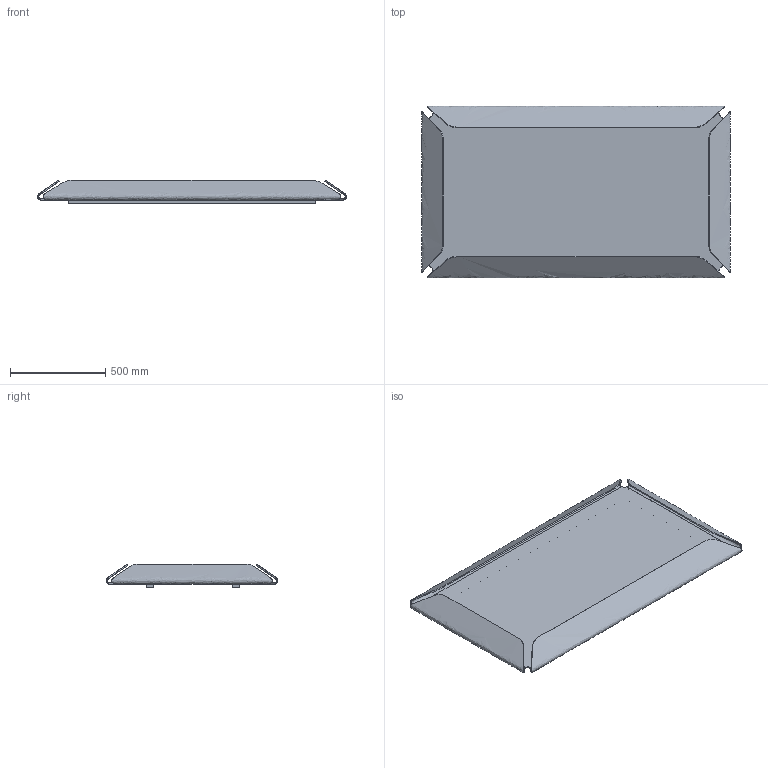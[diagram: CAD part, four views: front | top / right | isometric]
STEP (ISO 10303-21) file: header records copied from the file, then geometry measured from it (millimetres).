
FILE_DESCRIPTION(/* description */ (''),/* implementation_level */ '2;1');
FILE_NAME(/* name */ '381 - Gallery Square 90x162',/* time_stamp */ '2010-11-02T14:42:58+01:00',/* author */ (''),/* organization */ (''),/* preprocessor_version */ 'ST-DEVELOPER v10',/* originating_system */ '',/* authorisation */ '');
FILE_SCHEMA (('CONFIG_CONTROL_DESIGN'));
Length unit declared in the file: centimetre
Products named in the file (1): 1
Bounding box: 1620 x 900 x 124.78 mm (x, y, z)
Volume: 15359095.8 mm3; surface area: 5230322.1 mm2
Topology: 7 solids, 7 shells, 88 faces, 222 edges, 148 vertices
Faces by surface type: bspline 74, plane 14
Entity records: 3690 total; most frequent: CARTESIAN_POINT 2232, ORIENTED_EDGE 444, EDGE_CURVE 222, B_SPLINE_CURVE_WITH_KNOTS 170, VERTEX_POINT 148, EDGE_LOOP 96, ADVANCED_FACE 88, FACE_OUTER_BOUND 88
